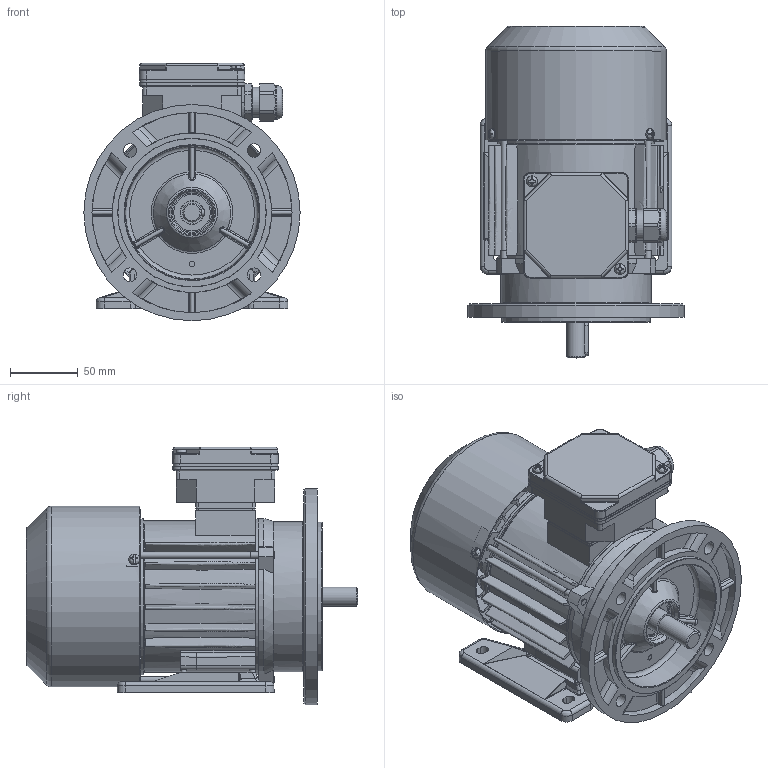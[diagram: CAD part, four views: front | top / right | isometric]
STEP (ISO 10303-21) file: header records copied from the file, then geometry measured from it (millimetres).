
FILE_DESCRIPTION( ( 'Unknown' ), '1' );
FILE_NAME( 'G:/Poczta Tk-1/STP/w.m.71/Sh71/SLh71-.B.stp', 'Unknown', ( 'K. Szlosek' ), ( 'BESEL S.A.' ), 'PSStep 17.0.49', 'Unknown', ' ' );
FILE_SCHEMA( ( 'AUTOMOTIVE_DESIGN { 1 0 10303 214 1 1 1 1 }' ) );
Length unit declared in the file: millimetre
Products named in the file (29): Assem1; Wkręt samogwintujący M4x16; K1-0448 Łapa Sh71-.. ; K3-3984 Przewietrznik Sh71; K3-6469 Tarcza łożyskowa P S(E,M)h71-B,C; K3-4502 wał standard Sh71-B; K1-1244 Tarcza kołnierzowa B5 w.m. 71; Wpust A5x5x25; Wkręt samogwintujący M4x8; Nitokołek A 2x6; K1-1194 Kadłub z zamkami Sh71-.B; K3-2975 Osłona przewietrznika Sh71-.B,C; K2-0860 Pokrywka skrzynki zaciskowej; K4-2320 Uszczelka nr 1 Sh71,80; K2-0859 Podstawa skrzynki 6-cio zaciskowej; K4-2820 Uszczelka nr 2 Sh71,80; Dławnica M20x1,5; Łożysko 6203; Śruba ściągająca E_M5x110; Tabliczka znamionowa 32x44
Assembly tree (44 placements, depth 2):
  Assem1
    Wkręt samogwintujący M4x16  x2
    K1-0448 Łapa Sh71-.. 
    K3-3984 Przewietrznik Sh71
    K3-6469 Tarcza łożyskowa P S(E,M)h71-B,C
    K3-4502 wał standard Sh71-B
    K1-1244 Tarcza kołnierzowa B5 w.m. 71
    Wpust A5x5x25
    Wkręt samogwintujący M4x8  x3
    Nitokołek A 2x6  x2
    K1-1194 Kadłub z zamkami Sh71-.B
    K3-2975 Osłona przewietrznika Sh71-.B,C
    K2-0860 Pokrywka skrzynki zaciskowej
    K4-2320 Uszczelka nr 1 Sh71,80
    K2-0859 Podstawa skrzynki 6-cio zaciskowej
    K4-2820 Uszczelka nr 2 Sh71,80
    Dławnica M20x1,5
    Łożysko 6203  x2
    Łożysko 6203  x2
    Łożysko 6203  x2
    Łożysko 6203  x2
    Łożysko 6203  x2
    Łożysko 6203  x2
    Łożysko 6203  x2
    Łożysko 6203  x2
    Łożysko 6203  x2
    Łożysko 6203  x2
    Śruba ściągająca E_M5x110  x3
    Tabliczka znamionowa 32x44
Bounding box: 160 x 245.5 x 190.5 mm (x, y, z)
Volume: 757607.1 mm3; surface area: 470023.7 mm2
Topology: 44 solids, 60 shells, 2545 faces, 6893 edges, 4405 vertices
Faces by surface type: plane 1034, cylinder 746, bspline 389, torus 175, cone 159, sphere 42
Full cylindrical faces by diameter (mm): 2 x2, 2.4 x2, 3.7 x7, 3.8 x4, 4 x6, 4.2 x3, 4.5 x1, 4.6 x3, 4.8 x4, 5 x7, 5.5 x3, 5.8 x4, 7 x1, 8 x9, 10 x4, 14 x1, 15.9 x1, 16.1 x1, 16.5 x1, 17 x4, 17.4 x2, 18.376 x1, 18.38 x1, 20 x1, 22 x2, 22.3 x1, 22.5 x1, 23 x1, 23.1 x1, 24.498 x4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
Entity records: 149347 total; most frequent: CARTESIAN_POINT 73233, ORIENTED_EDGE 12288, DIRECTION 10955, EDGE_CURVE 6144, AXIS2_PLACEMENT_3D 4155, VERTEX_POINT 4075, EDGE_LOOP 2808, LINE 2645
